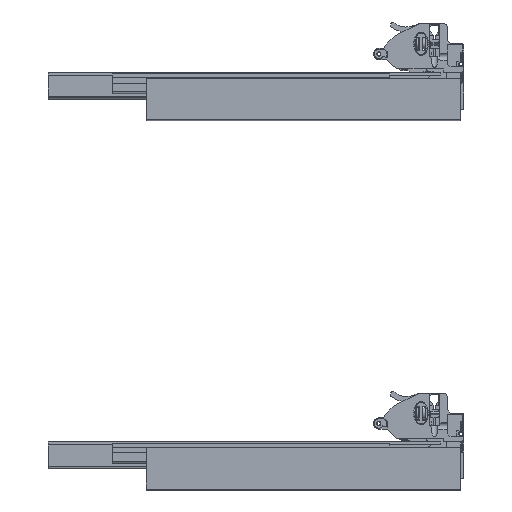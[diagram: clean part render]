
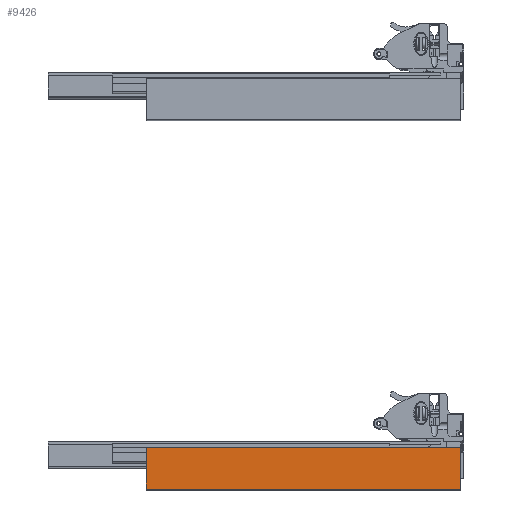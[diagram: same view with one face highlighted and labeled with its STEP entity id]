
A CAD part, front view. The second image highlights one B-rep face of the part: STEP entity #9426.
In plain terms, the highlighted planar face has unit normal (0, -1, 0).
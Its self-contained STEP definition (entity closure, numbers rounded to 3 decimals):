
#93=PLANE('',#10001);
#487=LINE('',#13385,#1614);
#488=LINE('',#13388,#1615);
#489=LINE('',#13390,#1616);
#490=LINE('',#13391,#1617);
#1614=VECTOR('',#10788,10.);
#1615=VECTOR('',#10791,10.);
#1616=VECTOR('',#10792,10.);
#1617=VECTOR('',#10793,10.);
#2867=FACE_OUTER_BOUND('',#3372,.T.);
#3372=EDGE_LOOP('',(#6500,#6501,#6502,#6503));
#4205=VERTEX_POINT('',#13378);
#4208=VERTEX_POINT('',#13383);
#4209=VERTEX_POINT('',#13387);
#4210=VERTEX_POINT('',#13389);
#5132=EDGE_CURVE('',#4208,#4205,#487,.T.);
#5133=EDGE_CURVE('',#4208,#4209,#488,.T.);
#5134=EDGE_CURVE('',#4209,#4210,#489,.T.);
#5135=EDGE_CURVE('',#4205,#4210,#490,.T.);
#6500=ORIENTED_EDGE('',*,*,#5132,.F.);
#6501=ORIENTED_EDGE('',*,*,#5133,.T.);
#6502=ORIENTED_EDGE('',*,*,#5134,.T.);
#6503=ORIENTED_EDGE('',*,*,#5135,.F.);
#9426=ADVANCED_FACE('',(#2867),#93,.T.);
#10001=AXIS2_PLACEMENT_3D('',#13386,#10789,#10790);
#10788=DIRECTION('',(-1.,0.,0.));
#10789=DIRECTION('center_axis',(0.,-1.,0.));
#10790=DIRECTION('ref_axis',(0.,0.,-1.));
#10791=DIRECTION('',(0.,0.,1.));
#10792=DIRECTION('',(-1.,0.,0.));
#10793=DIRECTION('',(0.,0.,1.));
#13378=CARTESIAN_POINT('',(-57.839,-144.183,1.));
#13383=CARTESIAN_POINT('',(282.161,-144.183,1.));
#13385=CARTESIAN_POINT('',(197.161,-144.183,1.));
#13386=CARTESIAN_POINT('Origin',(282.161,-144.183,0.));
#13387=CARTESIAN_POINT('',(282.161,-144.183,46.));
#13388=CARTESIAN_POINT('',(282.161,-144.183,0.));
#13389=CARTESIAN_POINT('',(-57.839,-144.183,46.));
#13390=CARTESIAN_POINT('',(-57.839,-144.183,46.));
#13391=CARTESIAN_POINT('',(-57.839,-144.183,0.));
